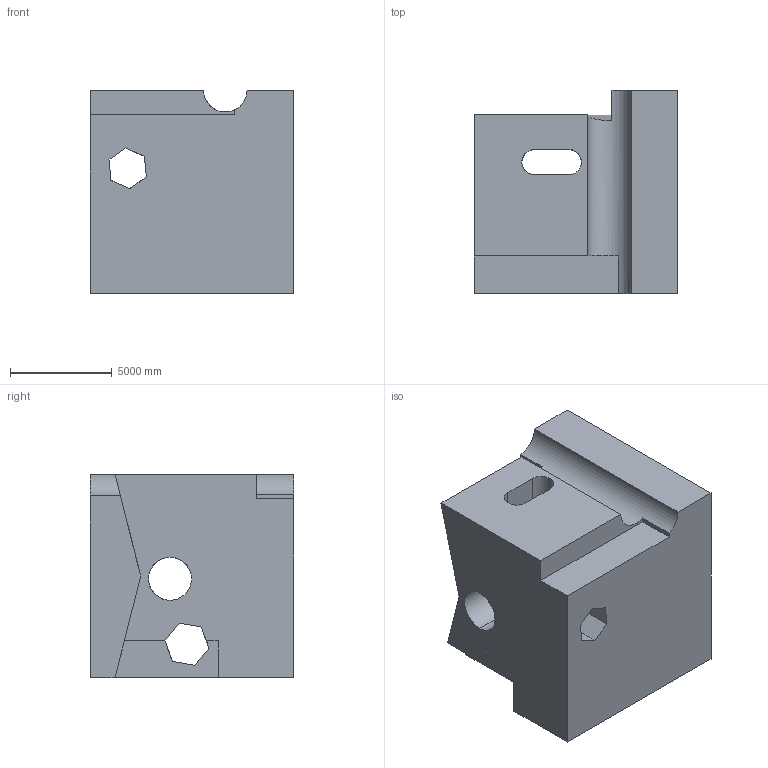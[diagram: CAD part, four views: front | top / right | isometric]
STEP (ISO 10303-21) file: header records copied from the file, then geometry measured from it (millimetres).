
FILE_DESCRIPTION (( 'STEP AP203' ), '1' );
FILE_NAME ('1882.STEP', '2022-08-19T13:56:42', ( 'user' ), ( '' ), 'SwSTEP 2.0', 'SolidWorks 2021', '' );
FILE_SCHEMA (( 'CONFIG_CONTROL_DESIGN' ));
Length unit declared in the file: centimetre
Products named in the file (1): 1882
Bounding box: 10000 x 10000 x 10000 mm (x, y, z)
Volume: 706172755629.2 mm3; surface area: 787730101.2 mm2
Topology: 1 solids, 1 shells, 52 faces, 171 edges, 114 vertices
Faces by surface type: plane 41, cylinder 11
Entity records: 2400 total; most frequent: CARTESIAN_POINT 855, ORIENTED_EDGE 342, DIRECTION 266, EDGE_CURVE 171, LINE 126, VECTOR 126, VERTEX_POINT 114, AXIS2_PLACEMENT_3D 70
